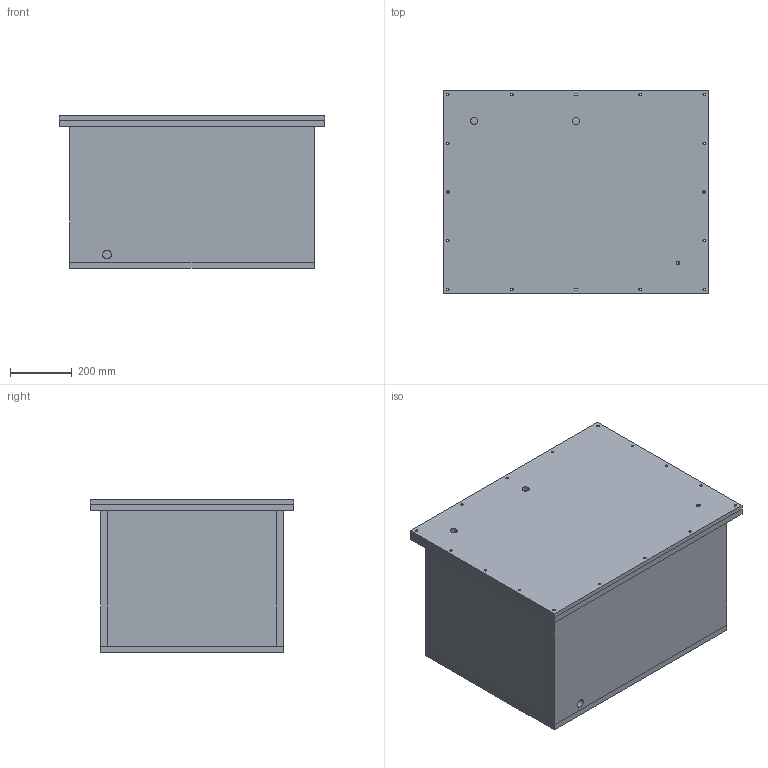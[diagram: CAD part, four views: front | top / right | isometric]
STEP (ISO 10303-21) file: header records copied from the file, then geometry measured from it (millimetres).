
FILE_DESCRIPTION (( 'STEP AP214' ), '1' );
FILE_NAME ('saci_nadrz_sestava.STEP', '2019-08-05T08:10:41', ( '' ), ( '' ), 'SwSTEP 2.0', 'SolidWorks 2016', '' );
FILE_SCHEMA (( 'AUTOMOTIVE_DESIGN' ));
Length unit declared in the file: millimetre
Products named in the file (9): saci_nadrz_horní_cast; saci_nadrz_bocnice; saci_nadrz_bocnice_zavit; saci_nadrz_viko; saci_nadrz_celo; saci_nadrz_dno; saci_nadrz_prepazka; saci_nadrz_sestava; saci_nadrz_celo_topne_teleso
Assembly tree (9 placements, depth 2):
  saci_nadrz_sestava
    saci_nadrz_dno
    saci_nadrz_bocnice
    saci_nadrz_celo
    saci_nadrz_horní_cast
    saci_nadrz_celo_topne_teleso
    saci_nadrz_prepazka  x2
    saci_nadrz_viko
    saci_nadrz_bocnice_zavit
Bounding box: 860 x 660 x 495 mm (x, y, z)
Volume: 48006044.1 mm3; surface area: 5918860.8 mm2
Topology: 9 solids, 9 shells, 182 faces, 464 edges, 302 vertices
Faces by surface type: cylinder 102, plane 68, torus 8, cone 4
Entity records: 6427 total; most frequent: DIRECTION 1021, CARTESIAN_POINT 916, ORIENTED_EDGE 886, EDGE_CURVE 443, AXIS2_PLACEMENT_3D 393, VERTEX_POINT 288, EDGE_LOOP 257, VECTOR 235
